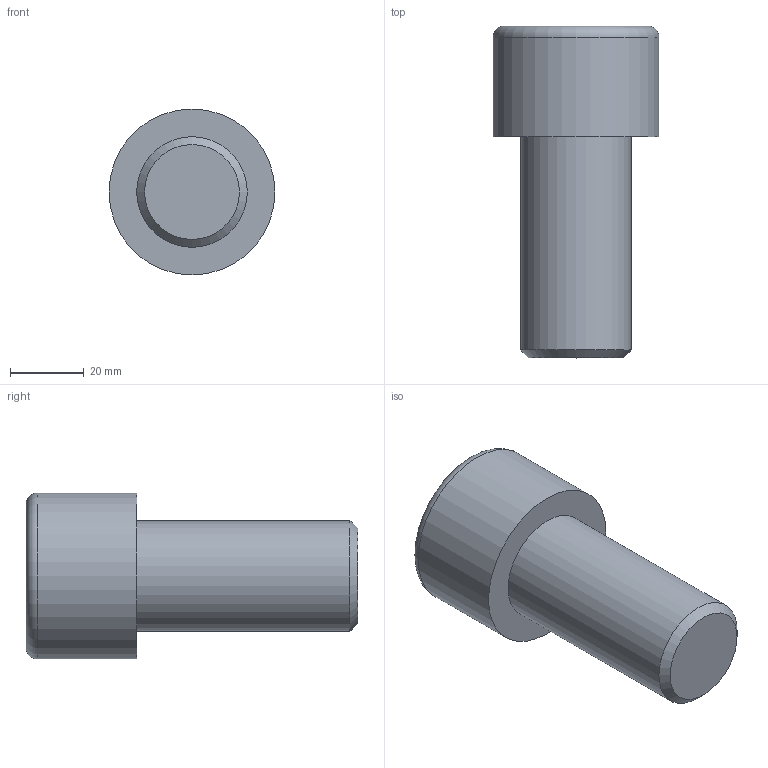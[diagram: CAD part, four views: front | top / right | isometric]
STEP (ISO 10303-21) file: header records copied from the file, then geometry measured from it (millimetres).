
FILE_DESCRIPTION(/* description */ (''),/* implementation_level */ '2;1');
FILE_NAME(/* name */ 'C:\Users\D\Documents\Inventor\各種小物\JIS\JIS B 1176 六角穴付きボルト\M30x60.stp',/* time_stamp */ '2022-05-09T19:02:01+09:00',/* author */ ('D'),/* organization */ (''),/* preprocessor_version */ 'ST-DEVELOPER v18',/* originating_system */ 'Autodesk Inventor 2020',/* authorisation */ '');
FILE_SCHEMA (('AUTOMOTIVE_DESIGN { 1 0 10303 214 3 1 1 }'));
Length unit declared in the file: millimetre
Products named in the file (1): M1.6x2.5
Bounding box: 45 x 90 x 45 mm (x, y, z)
Volume: 81950.2 mm3; surface area: 14061.4 mm2
Topology: 1 solids, 1 shells, 14 faces, 33 edges, 22 vertices
Faces by surface type: plane 9, cone 2, cylinder 2, torus 1
Full cylindrical faces by diameter (mm): 30 x1, 45 x1
Entity records: 435 total; most frequent: CARTESIAN_POINT 83, ORIENTED_EDGE 64, DIRECTION 64, EDGE_CURVE 32, AXIS2_PLACEMENT_3D 24, VERTEX_POINT 22, EDGE_LOOP 16, LINE 16
